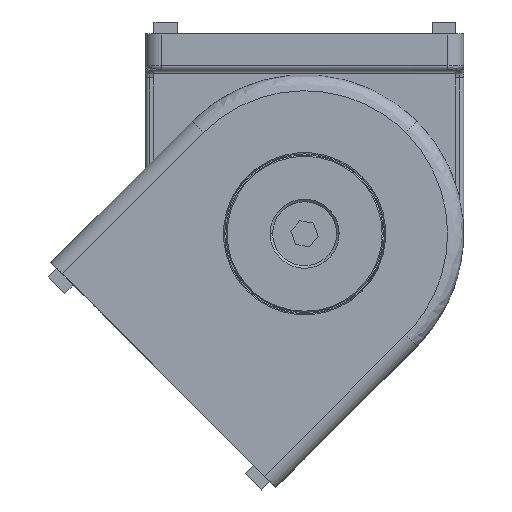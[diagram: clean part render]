
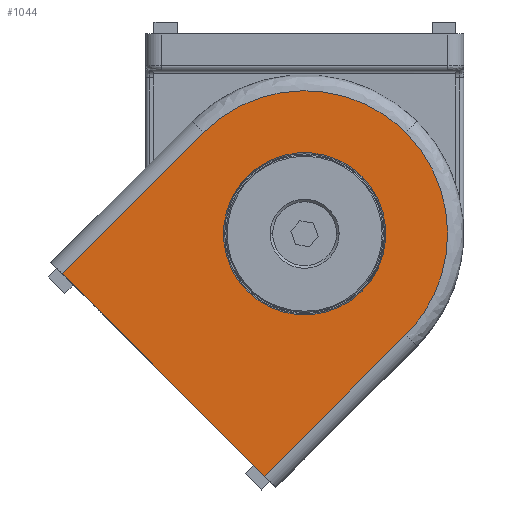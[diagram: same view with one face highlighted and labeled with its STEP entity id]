
A CAD part, front view. The second image highlights one B-rep face of the part: STEP entity #1044.
In plain terms, the highlighted planar face has unit normal (0, -1, 0) as drawn and (0, 1, 0) by its records, which use the part's own axes.
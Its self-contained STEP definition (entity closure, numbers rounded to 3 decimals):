
#78 = VERTEX_POINT ( 'NONE', #3393 ) ;
#473 = EDGE_CURVE ( 'NONE', #10009, #12317, #1610, .T. ) ;
#892 = DIRECTION ( 'NONE',  ( -1., 0., 0. ) ) ;
#978 = FACE_BOUND ( 'NONE', #3347, .T. ) ;
#1044 = ADVANCED_FACE ( 'NONE', ( #3067, #978 ), #10323, .F. ) ;
#1097 = VECTOR ( 'NONE', #892, 1000. ) ;
#1610 =( BOUNDED_CURVE ( )  B_SPLINE_CURVE ( 3, ( #8774, #3509, #9739, #12919 ),
 .UNSPECIFIED., .F., .F. ) 
 B_SPLINE_CURVE_WITH_KNOTS ( ( 4, 4 ),
 ( 0., 1. ),
 .UNSPECIFIED. ) 
 CURVE ( )  GEOMETRIC_REPRESENTATION_ITEM ( )  RATIONAL_B_SPLINE_CURVE ( ( 1., 0.805, 0.805, 1. ) ) 
 REPRESENTATION_ITEM ( '' )  );
#1764 = CARTESIAN_POINT ( 'NONE',  ( -35.8, 19.9, 0. ) ) ;
#1970 = CARTESIAN_POINT ( 'NONE',  ( 0., 19.9, -41. ) ) ;
#1993 = CARTESIAN_POINT ( 'NONE',  ( -45.5, 19.9, 9. ) ) ;
#2159 = ORIENTED_EDGE ( 'NONE', *, *, #7408, .F. ) ;
#2180 = EDGE_CURVE ( 'NONE', #12216, #6155, #3480, .T. ) ;
#2197 = EDGE_CURVE ( 'NONE', #6013, #10009, #7248, .T. ) ;
#2202 = ORIENTED_EDGE ( 'NONE', *, *, #10096, .F. ) ;
#2336 = EDGE_LOOP ( 'NONE', ( #4219, #4993, #2159, #2202, #10725 ) ) ;
#3067 = FACE_OUTER_BOUND ( 'NONE', #2336, .T. ) ;
#3347 = EDGE_LOOP ( 'NONE', ( #13235, #13277 ) ) ;
#3393 = CARTESIAN_POINT ( 'NONE',  ( 35.8, 19.9, 9. ) ) ;
#3480 = CIRCLE ( 'NONE', #10099, 20.319 ) ;
#3509 = CARTESIAN_POINT ( 'NONE',  ( -35.8, 19.9, -61.971 ) ) ;
#3574 = AXIS2_PLACEMENT_3D ( 'NONE', #10519, #6524, #12885 ) ;
#3919 = DIRECTION ( 'NONE',  ( 0., 1., 0. ) ) ;
#3930 = VECTOR ( 'NONE', #10342, 1000. ) ;
#4021 = CIRCLE ( 'NONE', #3574, 20.319 ) ;
#4025 = LINE ( 'NONE', #4234, #10378 ) ;
#4219 = ORIENTED_EDGE ( 'NONE', *, *, #2197, .F. ) ;
#4234 = CARTESIAN_POINT ( 'NONE',  ( 35.8, 19.9, 0. ) ) ;
#4993 = ORIENTED_EDGE ( 'NONE', *, *, #7753, .F. ) ;
#6013 = VERTEX_POINT ( 'NONE', #8233 ) ;
#6035 = CARTESIAN_POINT ( 'NONE',  ( 20.971, 19.9, -76.8 ) ) ;
#6155 = VERTEX_POINT ( 'NONE', #10774 ) ;
#6212 = DIRECTION ( 'NONE',  ( 0., 0., 1. ) ) ;
#6233 = CARTESIAN_POINT ( 'NONE',  ( 0., 19.9, -61.319 ) ) ;
#6524 = DIRECTION ( 'NONE',  ( 0., 1., 0. ) ) ;
#7248 = LINE ( 'NONE', #1764, #3930 ) ;
#7408 = EDGE_CURVE ( 'NONE', #9176, #78, #4025, .T. ) ;
#7576 =( BOUNDED_CURVE ( )  B_SPLINE_CURVE ( 3, ( #10098, #6035, #11281, #10297 ),
 .UNSPECIFIED., .F., .F. ) 
 B_SPLINE_CURVE_WITH_KNOTS ( ( 4, 4 ),
 ( 0., 1. ),
 .UNSPECIFIED. ) 
 CURVE ( )  GEOMETRIC_REPRESENTATION_ITEM ( )  RATIONAL_B_SPLINE_CURVE ( ( 1., 0.805, 0.805, 1. ) ) 
 REPRESENTATION_ITEM ( '' )  );
#7753 = EDGE_CURVE ( 'NONE', #78, #6013, #10572, .T. ) ;
#7901 = CARTESIAN_POINT ( 'NONE',  ( -35.8, 19.9, -41. ) ) ;
#8128 = DIRECTION ( 'NONE',  ( 0., 0., -1. ) ) ;
#8233 = CARTESIAN_POINT ( 'NONE',  ( -35.8, 19.9, 9. ) ) ;
#8774 = CARTESIAN_POINT ( 'NONE',  ( -35.8, 19.9, -41. ) ) ;
#9154 = DIRECTION ( 'NONE',  ( 0., -1., 0. ) ) ;
#9176 = VERTEX_POINT ( 'NONE', #13081 ) ;
#9223 = CARTESIAN_POINT ( 'NONE',  ( 39.8, 19.9, 0. ) ) ;
#9477 = DIRECTION ( 'NONE',  ( 0., 0., 1. ) ) ;
#9739 = CARTESIAN_POINT ( 'NONE',  ( -20.971, 19.9, -76.8 ) ) ;
#10009 = VERTEX_POINT ( 'NONE', #7901 ) ;
#10096 = EDGE_CURVE ( 'NONE', #12317, #9176, #7576, .T. ) ;
#10098 = CARTESIAN_POINT ( 'NONE',  ( 0., 19.9, -76.8 ) ) ;
#10099 = AXIS2_PLACEMENT_3D ( 'NONE', #1970, #3919, #6212 ) ;
#10297 = CARTESIAN_POINT ( 'NONE',  ( 35.8, 19.9, -41. ) ) ;
#10323 = PLANE ( 'NONE',  #13616 ) ;
#10342 = DIRECTION ( 'NONE',  ( 0., 0., -1. ) ) ;
#10378 = VECTOR ( 'NONE', #9477, 1000. ) ;
#10519 = CARTESIAN_POINT ( 'NONE',  ( 0., 19.9, -41. ) ) ;
#10572 = LINE ( 'NONE', #1993, #1097 ) ;
#10725 = ORIENTED_EDGE ( 'NONE', *, *, #473, .F. ) ;
#10774 = CARTESIAN_POINT ( 'NONE',  ( 0., 19.9, -20.681 ) ) ;
#11281 = CARTESIAN_POINT ( 'NONE',  ( 35.8, 19.9, -61.971 ) ) ;
#11407 = CARTESIAN_POINT ( 'NONE',  ( 0., 19.9, -76.8 ) ) ;
#11645 = EDGE_CURVE ( 'NONE', #6155, #12216, #4021, .T. ) ;
#12216 = VERTEX_POINT ( 'NONE', #6233 ) ;
#12317 = VERTEX_POINT ( 'NONE', #11407 ) ;
#12885 = DIRECTION ( 'NONE',  ( 0., 0., 1. ) ) ;
#12919 = CARTESIAN_POINT ( 'NONE',  ( 0., 19.9, -76.8 ) ) ;
#13081 = CARTESIAN_POINT ( 'NONE',  ( 35.8, 19.9, -41. ) ) ;
#13235 = ORIENTED_EDGE ( 'NONE', *, *, #11645, .F. ) ;
#13277 = ORIENTED_EDGE ( 'NONE', *, *, #2180, .F. ) ;
#13616 = AXIS2_PLACEMENT_3D ( 'NONE', #9223, #9154, #8128 ) ;
